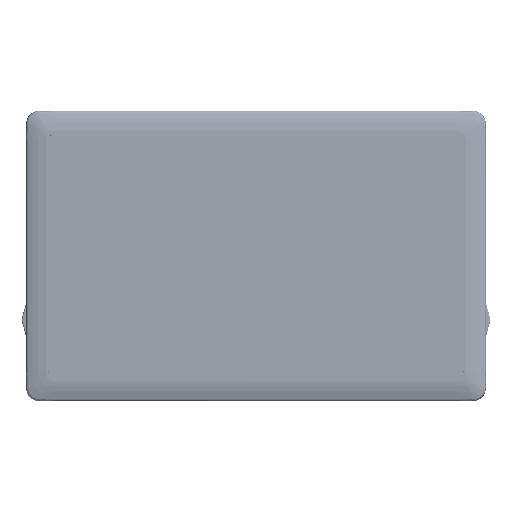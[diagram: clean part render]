
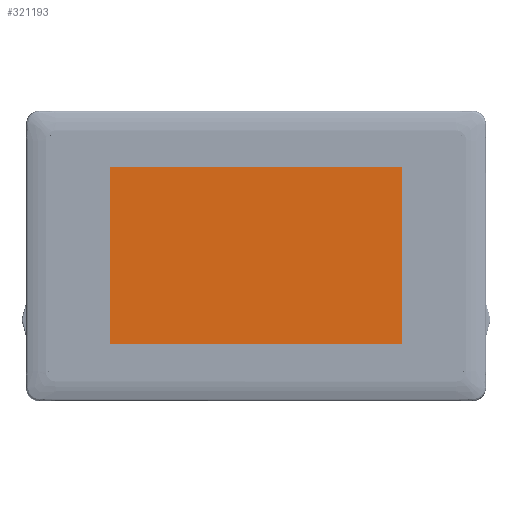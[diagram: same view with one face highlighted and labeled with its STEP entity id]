
A CAD part, top view. The second image highlights one B-rep face of the part: STEP entity #321193.
In plain terms, the highlighted planar face has unit normal (0, 0, 1).
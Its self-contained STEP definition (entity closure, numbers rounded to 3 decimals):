
#2001 = CARTESIAN_POINT ( 'NONE',  ( 0., 33.211, -0.6 ) ) ;
#21095 = CARTESIAN_POINT ( 'NONE',  ( 54.8, 0.005, -0.6 ) ) ;
#22261 = EDGE_CURVE ( 'NONE', #72423, #172979, #214340, .T. ) ;
#39305 = VERTEX_POINT ( 'NONE', #227608 ) ;
#44347 = CARTESIAN_POINT ( 'NONE',  ( 0., 0.005, -0.6 ) ) ;
#46083 = DIRECTION ( 'NONE',  ( 1., 0., 0. ) ) ;
#52824 = DIRECTION ( 'NONE',  ( 1., 0., 0. ) ) ;
#69163 = VECTOR ( 'NONE', #233935, 1000. ) ;
#72423 = VERTEX_POINT ( 'NONE', #297268 ) ;
#80998 = EDGE_CURVE ( 'NONE', #39305, #82946, #283026, .T. ) ;
#82946 = VERTEX_POINT ( 'NONE', #123026 ) ;
#97794 = EDGE_CURVE ( 'NONE', #82946, #72423, #344344, .T. ) ;
#104030 = CARTESIAN_POINT ( 'NONE',  ( -54.8, 0.005, -0.6 ) ) ;
#123026 = CARTESIAN_POINT ( 'NONE',  ( -54.8, -33.189, -0.6 ) ) ;
#123113 = AXIS2_PLACEMENT_3D ( 'NONE', #44347, #147914, #46083 ) ;
#143398 = EDGE_CURVE ( 'NONE', #172979, #39305, #152727, .T. ) ;
#147914 = DIRECTION ( 'NONE',  ( 0., 0., 1. ) ) ;
#152727 = LINE ( 'NONE', #21095, #230076 ) ;
#160127 = VECTOR ( 'NONE', #265490, 1000. ) ;
#172979 = VERTEX_POINT ( 'NONE', #180523 ) ;
#179525 = FACE_OUTER_BOUND ( 'NONE', #339835, .T. ) ;
#179557 = CARTESIAN_POINT ( 'NONE',  ( 0., -33.189, -0.6 ) ) ;
#180523 = CARTESIAN_POINT ( 'NONE',  ( 54.8, 33.211, -0.6 ) ) ;
#185991 = ORIENTED_EDGE ( 'NONE', *, *, #22261, .F. ) ;
#204429 = ORIENTED_EDGE ( 'NONE', *, *, #97794, .F. ) ;
#214340 = LINE ( 'NONE', #2001, #297601 ) ;
#227608 = CARTESIAN_POINT ( 'NONE',  ( 54.8, -33.189, -0.6 ) ) ;
#230076 = VECTOR ( 'NONE', #343769, 1000. ) ;
#233935 = DIRECTION ( 'NONE',  ( -1., 0., 0. ) ) ;
#265490 = DIRECTION ( 'NONE',  ( 0., 1., 0. ) ) ;
#269936 = ORIENTED_EDGE ( 'NONE', *, *, #80998, .F. ) ;
#271056 = ORIENTED_EDGE ( 'NONE', *, *, #143398, .F. ) ;
#283026 = LINE ( 'NONE', #179557, #69163 ) ;
#297268 = CARTESIAN_POINT ( 'NONE',  ( -54.8, 33.211, -0.6 ) ) ;
#297601 = VECTOR ( 'NONE', #52824, 1000. ) ;
#321193 = ADVANCED_FACE ( 'NONE', ( #179525 ), #337307, .T. ) ;
#337307 = PLANE ( 'NONE',  #123113 ) ;
#339835 = EDGE_LOOP ( 'NONE', ( #271056, #185991, #204429, #269936 ) ) ;
#343769 = DIRECTION ( 'NONE',  ( 0., -1., 0. ) ) ;
#344344 = LINE ( 'NONE', #104030, #160127 ) ;
